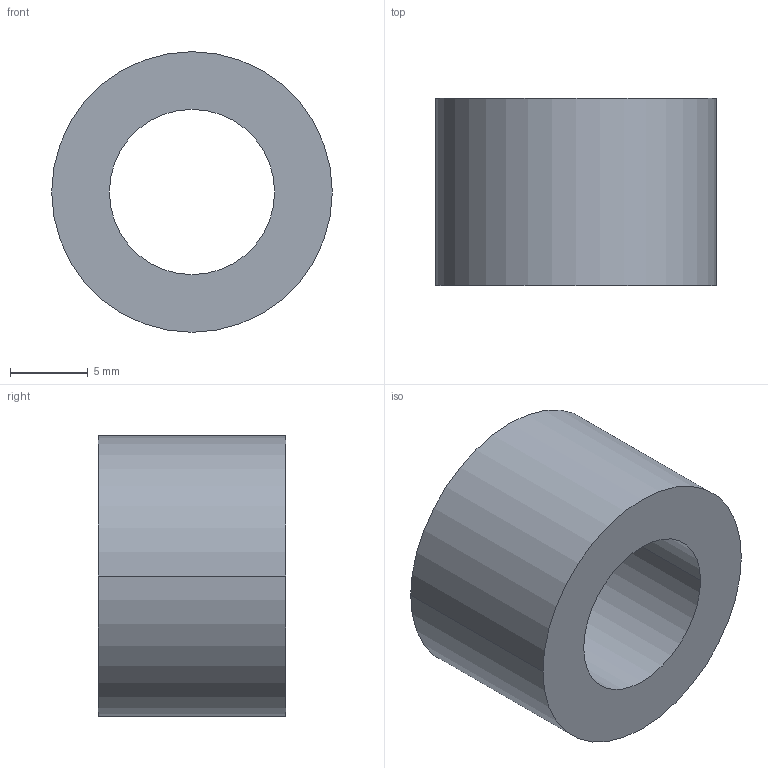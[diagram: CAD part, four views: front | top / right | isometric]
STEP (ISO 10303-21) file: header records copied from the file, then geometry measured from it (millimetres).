
FILE_DESCRIPTION (( 'STEP AP203' ), '1' );
FILE_NAME ('30800.WPP18E10.6.step', '2019-01-23T22:35:16', ( '' ), ( '' ), 'SwSTEP 2.0', 'SolidWorks 2017', '' );
FILE_SCHEMA (( 'CONFIG_CONTROL_DESIGN' ));
Length unit declared in the file: millimetre
Products named in the file (1): 30800.WPP18E10.6
Bounding box: 18 x 12 x 18 mm (x, y, z)
Volume: 1963.7 mm3; surface area: 1383.8 mm2
Topology: 1 solids, 1 shells, 8 faces, 16 edges, 10 vertices
Faces by surface type: cylinder 4, torus 2, plane 2
Entity records: 297 total; most frequent: DIRECTION 46, CARTESIAN_POINT 35, ORIENTED_EDGE 32, AXIS2_PLACEMENT_3D 21, EDGE_CURVE 16, CIRCLE 12, EDGE_LOOP 10, VERTEX_POINT 10
